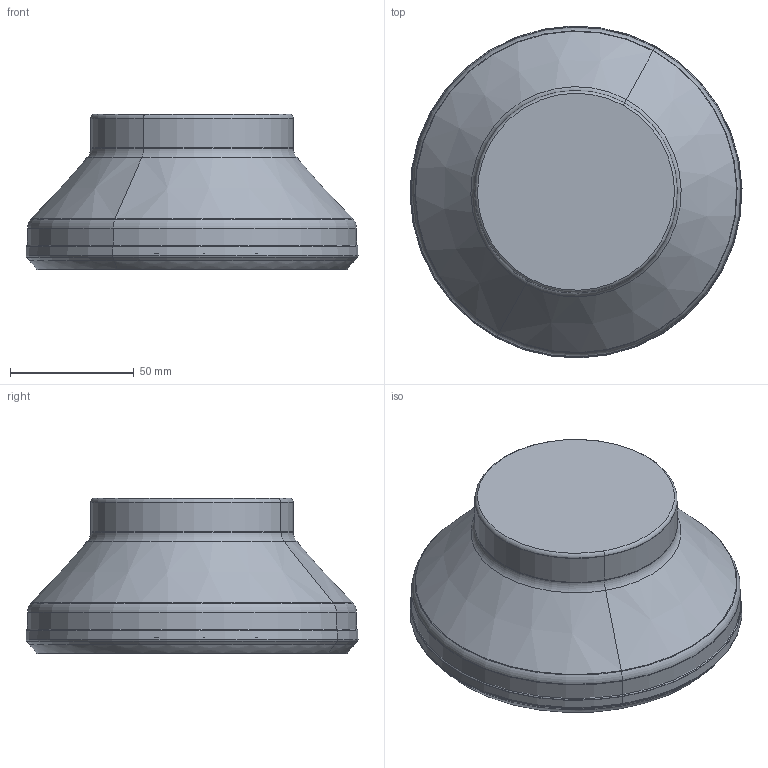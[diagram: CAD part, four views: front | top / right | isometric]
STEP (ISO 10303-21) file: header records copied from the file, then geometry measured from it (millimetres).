
FILE_DESCRIPTION(('CATIA V5 STEP Exchange'),'2;1');
FILE_NAME('I:\isr\design\admin8\users\hala_s\3106531.stp','2012-11-01T12:15:26+00:00',('none'),('none'),'CATIA Version 5 Release 21 SP 3 (IN-10)','CATIA V5 STEP AP214','none');
FILE_SCHEMA(('AUTOMOTIVE_DESIGN { 1 0 10303 214 1 1 1 1 }'));
Length unit declared in the file: millimetre
Products named in the file (1): 61058411_0 Assembly IQ845 FSY D125-12-40-R07
Bounding box: 134.36 x 134.36 x 63 mm (x, y, z)
Volume: 496339.4 mm3; surface area: 62013.8 mm2
Topology: 2 solids, 2 shells, 165 faces, 328 edges, 166 vertices
Faces by surface type: cone 122, torus 34, cylinder 6, plane 3
Entity records: 3599 total; most frequent: ORIENTED_EDGE 656, CARTESIAN_POINT 582, DIRECTION 502, EDGE_CURVE 328, AXIS2_PLACEMENT_3D 288, CIRCLE 200, EDGE_LOOP 166, VERTEX_POINT 166
